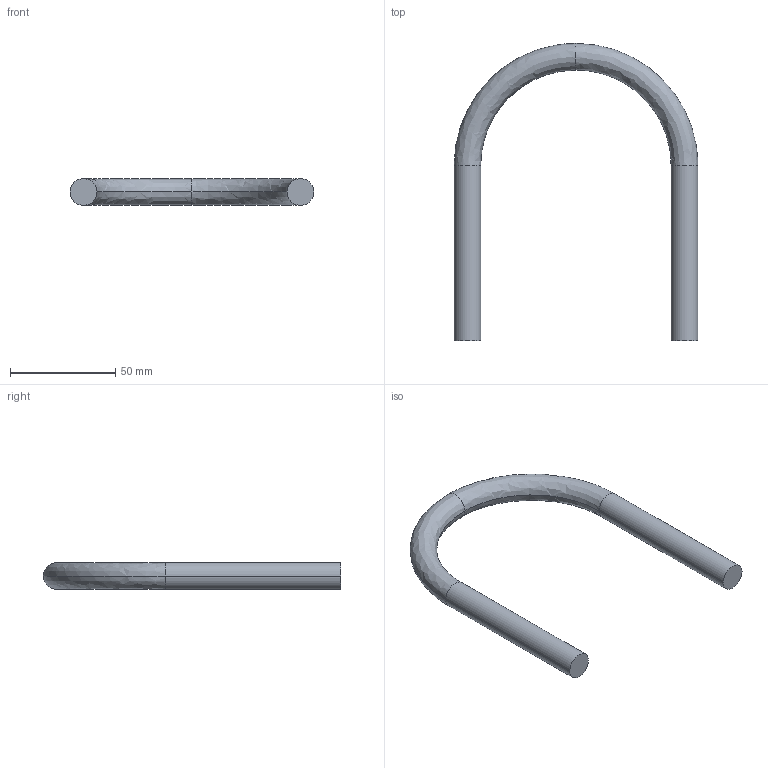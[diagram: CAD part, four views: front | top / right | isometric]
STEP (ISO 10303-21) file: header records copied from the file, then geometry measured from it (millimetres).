
FILE_DESCRIPTION(('TurboCAD Mac Pro'),'Build 980');
FILE_NAME('FUB-300.stp',' ',(''),(''),'ACIS Interop','IMSI','TurboCAD Mac Pro BY IMSI, INCORPORATED');
FILE_SCHEMA(('automotive_design'));
Length unit declared in the file: inch
Products named in the file (2): 1; 2
Bounding box: 115.87 x 141.27 x 12.7 mm (x, y, z)
Volume: 41612 mm3; surface area: 13365.4 mm2
Topology: 1 solids, 1 shells, 10 faces, 18 edges, 10 vertices
Faces by surface type: bspline 4, cylinder 4, plane 2
Entity records: 676 total; most frequent: CARTESIAN_POINT 330, DIRECTION 42, ORIENTED_EDGE 36, AXIS2_PLACEMENT_3D 18, EDGE_CURVE 18, STYLED_ITEM 15, PRESENTATION_STYLE_ASSIGNMENT 15, COLOUR_RGB 15
